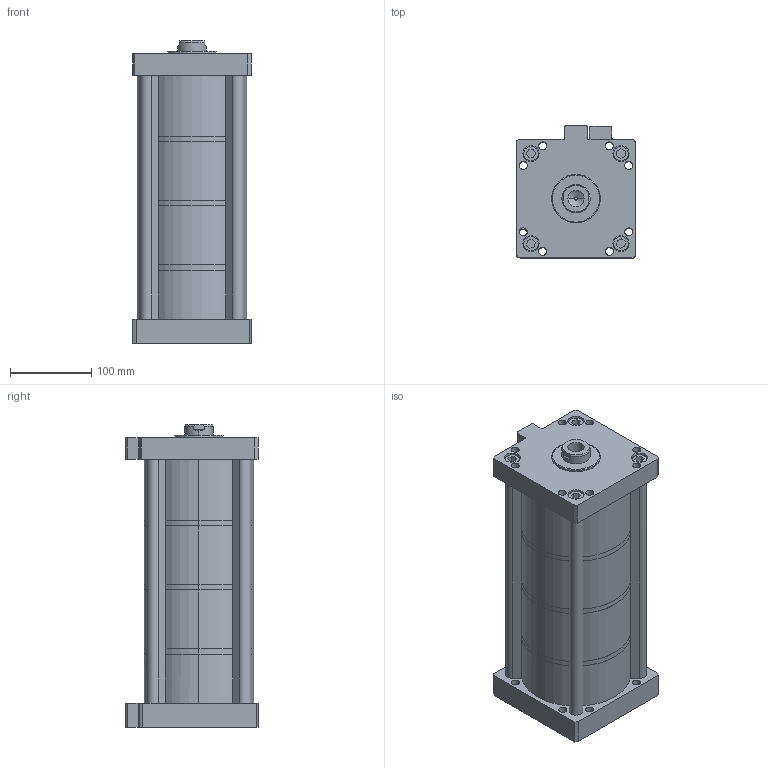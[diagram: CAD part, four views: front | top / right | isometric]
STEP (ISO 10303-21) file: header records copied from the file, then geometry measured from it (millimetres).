
FILE_DESCRIPTION (( 'STEP AP203' ), '1' );
FILE_NAME ('MHK-125-50-F-4.STEP', '2016-03-30T09:15:49', ( 'WIN' ), ( '' ), 'SwSTEP 2.0', 'SolidWorks 2014', '' );
FILE_SCHEMA (( 'CONFIG_CONTROL_DESIGN' ));
Length unit declared in the file: millimetre
Products named in the file (1): MHK-125-50-F-4
Bounding box: 146 x 163 x 373.5 mm (x, y, z)
Volume: 2241914.5 mm3; surface area: 607586.3 mm2
Topology: 4 solids, 8 shells, 315 faces, 759 edges, 500 vertices
Faces by surface type: plane 158, cylinder 145, cone 10, torus 2
Entity records: 9400 total; most frequent: DIRECTION 1691, CARTESIAN_POINT 1603, ORIENTED_EDGE 1510, EDGE_CURVE 755, AXIS2_PLACEMENT_3D 628, VERTEX_POINT 500, LINE 435, VECTOR 435
